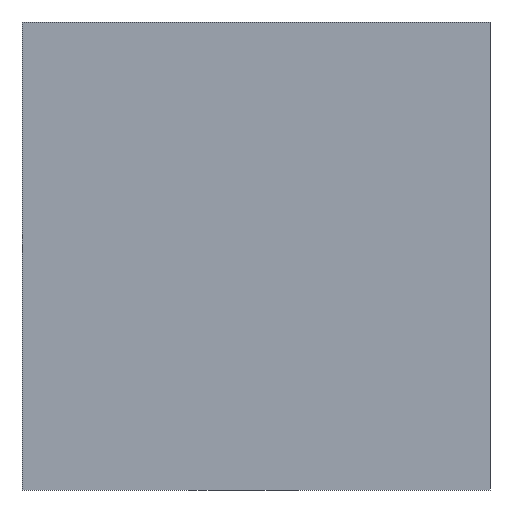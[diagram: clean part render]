
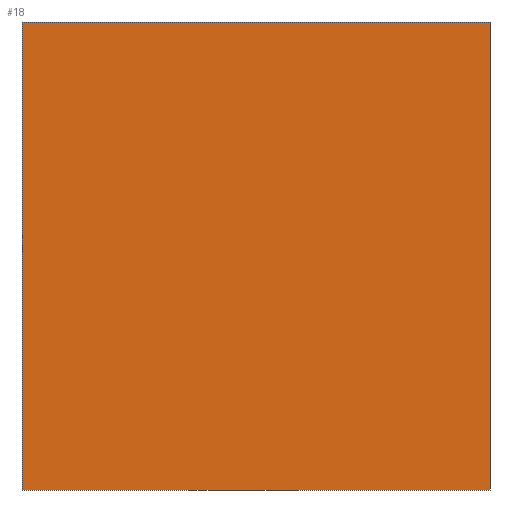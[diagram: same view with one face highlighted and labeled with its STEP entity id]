
A CAD part, front view. The second image highlights one B-rep face of the part: STEP entity #18.
In plain terms, the highlighted planar face has unit normal (0, -1, 0).
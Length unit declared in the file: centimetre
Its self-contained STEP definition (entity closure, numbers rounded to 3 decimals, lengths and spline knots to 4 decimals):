
#2 = EDGE_CURVE ( 'NONE', #700, #687, #57, .T. ) ;
#6 = CARTESIAN_POINT ( 'NONE',  ( 0., 0., 1000. ) ) ;
#18 = ADVANCED_FACE ( 'NONE', ( #336 ), #277, .F. ) ;
#31 = CARTESIAN_POINT ( 'NONE',  ( 1000., 0., 0. ) ) ;
#38 = CARTESIAN_POINT ( 'NONE',  ( 0., 0., 1000. ) ) ;
#57 = LINE ( 'NONE', #638, #600 ) ;
#94 = CARTESIAN_POINT ( 'NONE',  ( 1000., 0., 1000. ) ) ;
#98 = EDGE_CURVE ( 'NONE', #689, #687, #278, .T. ) ;
#101 = VECTOR ( 'NONE', #213, 100. ) ;
#114 = CARTESIAN_POINT ( 'NONE',  ( 0., 0., 1000. ) ) ;
#151 = ORIENTED_EDGE ( 'NONE', *, *, #436, .F. ) ;
#169 = DIRECTION ( 'NONE',  ( 0., 0., 1. ) ) ;
#178 = DIRECTION ( 'NONE',  ( 1., 0., 0. ) ) ;
#190 = ORIENTED_EDGE ( 'NONE', *, *, #2, .F. ) ;
#192 = AXIS2_PLACEMENT_3D ( 'NONE', #6, #234, #169 ) ;
#207 = CARTESIAN_POINT ( 'NONE',  ( 0., 0., 1000. ) ) ;
#213 = DIRECTION ( 'NONE',  ( 0., 0., -1. ) ) ;
#234 = DIRECTION ( 'NONE',  ( 0., 1., 0. ) ) ;
#253 = CARTESIAN_POINT ( 'NONE',  ( 0., 0., 0. ) ) ;
#277 = PLANE ( 'NONE',  #192 ) ;
#278 = LINE ( 'NONE', #608, #508 ) ;
#303 = DIRECTION ( 'NONE',  ( 0., 0., -1. ) ) ;
#308 = VERTEX_POINT ( 'NONE', #38 ) ;
#336 = FACE_OUTER_BOUND ( 'NONE', #469, .T. ) ;
#374 = DIRECTION ( 'NONE',  ( 1., 0., 0. ) ) ;
#376 = EDGE_CURVE ( 'NONE', #308, #689, #645, .T. ) ;
#415 = ORIENTED_EDGE ( 'NONE', *, *, #98, .T. ) ;
#434 = LINE ( 'NONE', #114, #454 ) ;
#436 = EDGE_CURVE ( 'NONE', #308, #700, #434, .T. ) ;
#454 = VECTOR ( 'NONE', #374, 100. ) ;
#469 = EDGE_LOOP ( 'NONE', ( #415, #190, #151, #497 ) ) ;
#497 = ORIENTED_EDGE ( 'NONE', *, *, #376, .T. ) ;
#508 = VECTOR ( 'NONE', #178, 100. ) ;
#600 = VECTOR ( 'NONE', #303, 100. ) ;
#608 = CARTESIAN_POINT ( 'NONE',  ( 0., 0., 0. ) ) ;
#638 = CARTESIAN_POINT ( 'NONE',  ( 1000., 0., 1000. ) ) ;
#645 = LINE ( 'NONE', #207, #101 ) ;
#687 = VERTEX_POINT ( 'NONE', #31 ) ;
#689 = VERTEX_POINT ( 'NONE', #253 ) ;
#700 = VERTEX_POINT ( 'NONE', #94 ) ;
